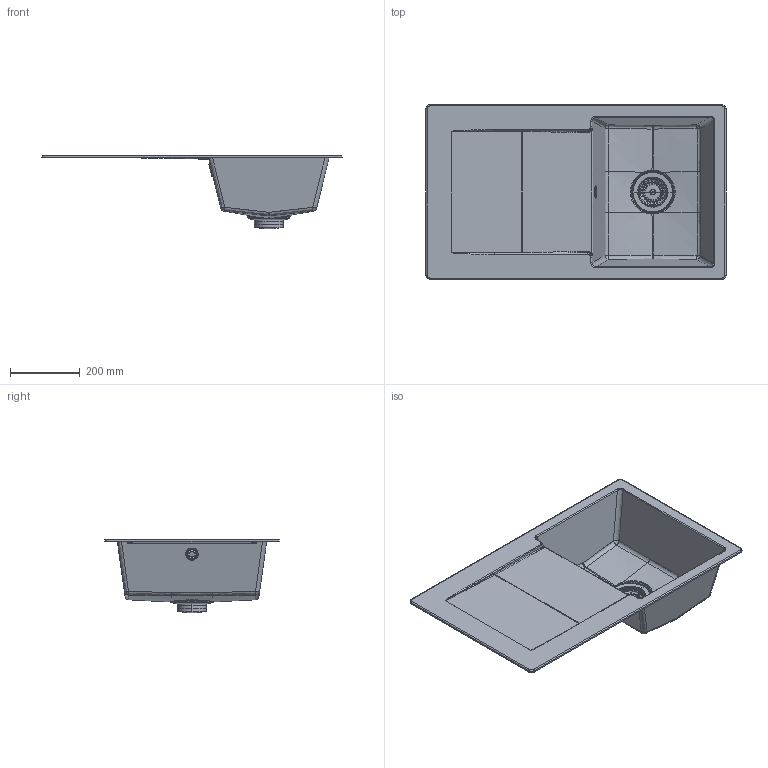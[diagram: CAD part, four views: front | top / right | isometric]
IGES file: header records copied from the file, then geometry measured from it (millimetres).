
Global section: file name: /Volumes/__KUNDEN/____01_SCHOCK/____projekte_schock/__RENDERINGS/__SPUELEN/02_3D Daten/02_PERSPEKTIVEN/Rhino/_SPU; native system: Rhinoceros ( Aug 27 2014 ); preprocessor: Trout Lake IGES 012 Aug 27 2014; date: 141103.152335; units: millimetre
Bounding box: 860 x 500 x 212.12 mm (x, y, z)
Surface area: 673334.7 mm2 (no closed solid volume)
Topology: 0 solids, 0 shells, 345 faces, 40138 edges, 40128 vertices
Faces by surface type: bspline 345
